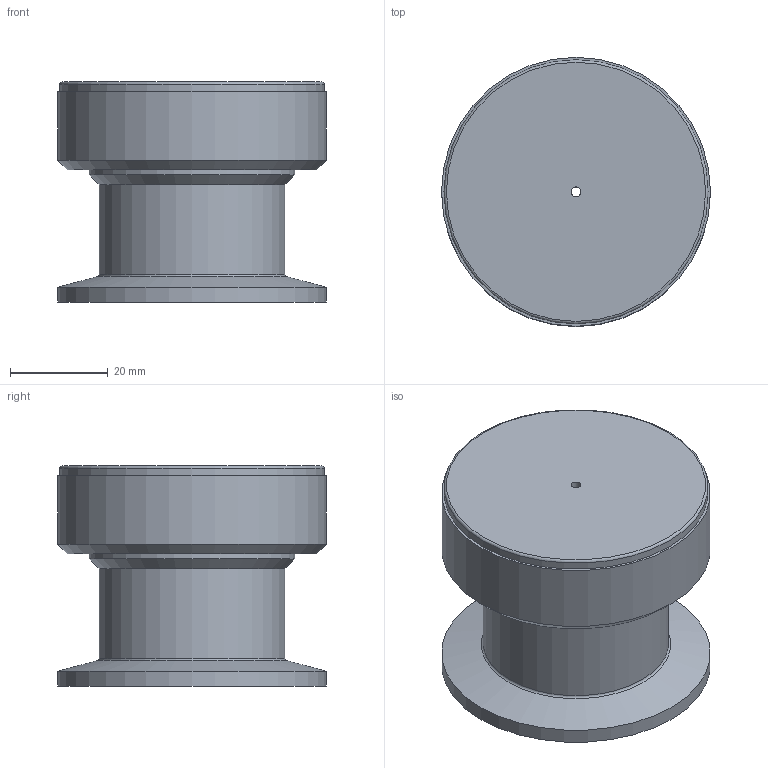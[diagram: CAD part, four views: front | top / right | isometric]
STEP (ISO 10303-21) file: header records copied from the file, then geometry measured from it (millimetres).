
FILE_DESCRIPTION( ( 'Unknown' ), '1' );
FILE_NAME( 'X:/Daten ( aktueller Bestand )/Projekte und Zeichnungen/Solid Edge/STP-Dateien/Sonderbauteile KF/1753-1.stp', 'Unknown', ( 'Unknown' ), ( 'Unknown' ), 'PSStep 14.0', 'Unknown', ' ' );
FILE_SCHEMA( ( 'AUTOMOTIVE_DESIGN { 1 0 10303 214 1 1 1 1 }' ) );
Length unit declared in the file: millimetre
Products named in the file (3): Assem1; 1743-1.1; 1743-1.21
Assembly tree (2 placements, depth 2):
  Assem1
    1743-1.1
    1743-1.21
Bounding box: 55 x 55 x 45 mm (x, y, z)
Volume: 35461.7 mm3; surface area: 22944.2 mm2
Topology: 2 solids, 2 shells, 28 faces, 50 edges, 30 vertices
Faces by surface type: cylinder 11, plane 8, cone 7, torus 2
Full cylindrical faces by diameter (mm): 2 x1, 25.5 x1, 36.1 x1, 38 x1, 41.2 x1, 42 x2, 45 x1, 54 x1, 55 x2
Entity records: 850 total; most frequent: DIRECTION 118, CARTESIAN_POINT 87, AXIS2_PLACEMENT_3D 59, EDGE_LOOP 56, ORIENTED_EDGE 56, FACE_OUTER_BOUND 41, STYLED_ITEM 28, PRESENTATION_STYLE_ASSIGNMENT 28
